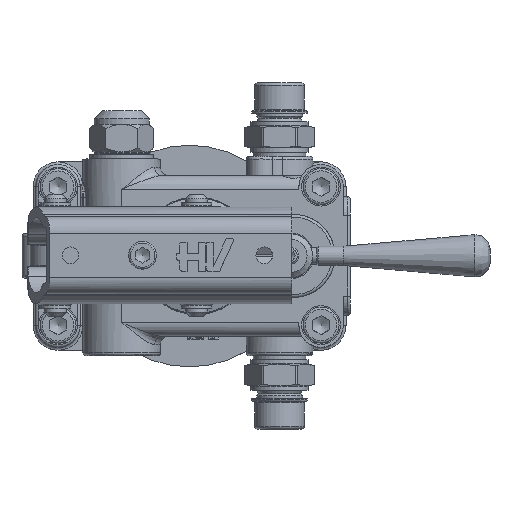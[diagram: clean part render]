
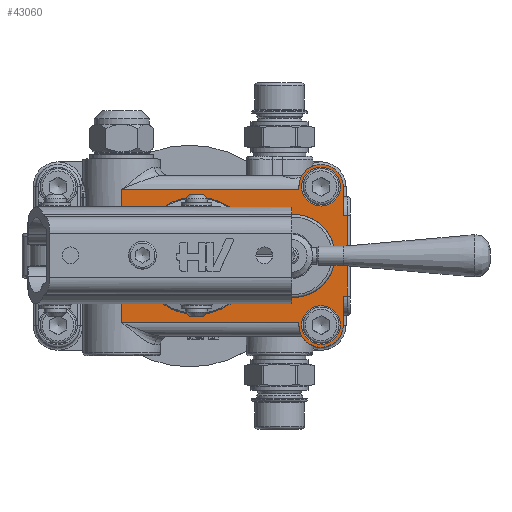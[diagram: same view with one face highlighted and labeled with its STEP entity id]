
A CAD part, top view. The second image highlights one B-rep face of the part: STEP entity #43060.
In plain terms, the highlighted planar face has unit normal (0, 0, 1).
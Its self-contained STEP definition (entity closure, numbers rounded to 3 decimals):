
#18689=CARTESIAN_POINT('',(74.594,44.858,43.));
#18690=VERTEX_POINT('',#18689);
#18691=CARTESIAN_POINT('',(59.,34.0,43.));
#18692=DIRECTION('',(0.,0.,-1.0));
#18693=DIRECTION('',(-0.821,-0.571,0.));
#18694=AXIS2_PLACEMENT_3D('',#18691,#18692,#18693);
#18695=CIRCLE('',#18694,19.002);
#18696=EDGE_CURVE('',#18690,#18690,#18695,.T.);
#37099=CARTESIAN_POINT('',(111.,59.,43.));
#37100=VERTEX_POINT('',#37099);
#37101=CARTESIAN_POINT('',(104.,59.,43.));
#37102=DIRECTION('',(0.0,0.0,-1.0));
#37103=DIRECTION('',(1.0,0.0,0.0));
#37104=AXIS2_PLACEMENT_3D('',#37101,#37102,#37103);
#37105=CIRCLE('',#37104,7.);
#37106=EDGE_CURVE('',#37100,#37100,#37105,.T.);
#37139=CARTESIAN_POINT('',(111.0,9.,43.));
#37140=VERTEX_POINT('',#37139);
#37141=CARTESIAN_POINT('',(104.0,9.,43.));
#37142=DIRECTION('',(0.0,0.0,-1.0));
#37143=DIRECTION('',(1.0,0.0,0.0));
#37144=AXIS2_PLACEMENT_3D('',#37141,#37142,#37143);
#37145=CIRCLE('',#37144,7.);
#37146=EDGE_CURVE('',#37140,#37140,#37145,.T.);
#38423=CARTESIAN_POINT('',(112.,9.,43.));
#38424=VERTEX_POINT('',#38423);
#38431=CARTESIAN_POINT('',(96.0,9.,43.));
#38432=VERTEX_POINT('',#38431);
#38433=CARTESIAN_POINT('',(104.0,9.,43.));
#38434=DIRECTION('',(0.0,0.0,-1.0));
#38435=DIRECTION('',(-1.0,0.0,0.0));
#38436=AXIS2_PLACEMENT_3D('',#38433,#38434,#38435);
#38437=CIRCLE('',#38436,8.0);
#38438=EDGE_CURVE('',#38424,#38432,#38437,.T.);
#38566=CARTESIAN_POINT('',(83.0,23.802,43.));
#38567=VERTEX_POINT('',#38566);
#38575=CARTESIAN_POINT('',(83.0,44.198,43.));
#38576=VERTEX_POINT('',#38575);
#38577=CARTESIAN_POINT('',(94.,34.0,43.));
#38578=DIRECTION('',(0.0,0.0,-1.0));
#38579=DIRECTION('',(-1.0,0.0,0.0));
#38580=AXIS2_PLACEMENT_3D('',#38577,#38578,#38579);
#38581=CIRCLE('',#38580,15.0);
#38582=EDGE_CURVE('',#38576,#38567,#38581,.T.);
#38601=CARTESIAN_POINT('',(83.0,23.802,43.));
#38602=DIRECTION('',(0.0,1.0,0.0));
#38603=VECTOR('',#38602,20.396);
#38604=LINE('',#38601,#38603);
#38605=EDGE_CURVE('',#38567,#38576,#38604,.T.);
#39102=CARTESIAN_POINT('',(96.,59.,43.));
#39103=VERTEX_POINT('',#39102);
#39110=CARTESIAN_POINT('',(112.0,59.,43.));
#39111=VERTEX_POINT('',#39110);
#39112=CARTESIAN_POINT('',(104.,59.,43.));
#39113=DIRECTION('',(0.0,0.0,-1.0));
#39114=DIRECTION('',(1.0,0.0,0.0));
#39115=AXIS2_PLACEMENT_3D('',#39112,#39113,#39114);
#39116=CIRCLE('',#39115,8.0);
#39117=EDGE_CURVE('',#39103,#39111,#39116,.T.);
#39142=CARTESIAN_POINT('',(32.,58.,43.));
#39143=VERTEX_POINT('',#39142);
#39159=CARTESIAN_POINT('',(96.,58.,43.));
#39160=VERTEX_POINT('',#39159);
#39161=CARTESIAN_POINT('',(96.,58.,43.));
#39162=DIRECTION('',(-1.0,0.0,0.0));
#39163=VECTOR('',#39162,64.);
#39164=LINE('',#39161,#39163);
#39165=EDGE_CURVE('',#39160,#39143,#39164,.T.);
#39961=CARTESIAN_POINT('',(32.,44.122,43.));
#39962=VERTEX_POINT('',#39961);
#39973=CARTESIAN_POINT('',(32.0,44.122,43.0));
#39974=DIRECTION('',(0.0,1.0,0.0));
#39975=VECTOR('',#39974,13.878);
#39976=LINE('',#39973,#39975);
#39977=EDGE_CURVE('',#39962,#39143,#39976,.T.);
#40665=CARTESIAN_POINT('',(32.,10.0,43.));
#40666=VERTEX_POINT('',#40665);
#41135=CARTESIAN_POINT('',(32.,23.878,43.));
#41136=VERTEX_POINT('',#41135);
#41137=CARTESIAN_POINT('',(32.0,10.,43.0));
#41138=DIRECTION('',(0.0,1.0,0.0));
#41139=VECTOR('',#41138,13.878);
#41140=LINE('',#41137,#41139);
#41141=EDGE_CURVE('',#40666,#41136,#41140,.T.);
#41234=CARTESIAN_POINT('',(96.0,10.0,43.));
#41235=VERTEX_POINT('',#41234);
#41243=CARTESIAN_POINT('',(96.0,10.0,43.));
#41244=DIRECTION('',(-1.0,0.0,0.0));
#41245=VECTOR('',#41244,64.);
#41246=LINE('',#41243,#41245);
#41247=EDGE_CURVE('',#41235,#40666,#41246,.T.);
#42470=CARTESIAN_POINT('',(113.5,48.5,43.));
#42471=VERTEX_POINT('',#42470);
#42514=CARTESIAN_POINT('',(113.5,19.5,43.));
#42515=VERTEX_POINT('',#42514);
#42532=CARTESIAN_POINT('',(113.5,48.5,43.));
#42533=DIRECTION('',(0.0,-1.0,0.0));
#42534=VECTOR('',#42533,29.);
#42535=LINE('',#42532,#42534);
#42536=EDGE_CURVE('',#42471,#42515,#42535,.T.);
#42955=CARTESIAN_POINT('',(112.0,19.5,43.));
#42956=VERTEX_POINT('',#42955);
#42957=CARTESIAN_POINT('',(112.0,19.5,43.));
#42958=DIRECTION('',(1.0,0.0,0.0));
#42959=VECTOR('',#42958,1.5);
#42960=LINE('',#42957,#42959);
#42961=EDGE_CURVE('',#42956,#42515,#42960,.T.);
#42974=CARTESIAN_POINT('',(104.,34.,43.));
#42975=DIRECTION('',(0.0,0.0,1.0));
#42976=DIRECTION('',(1.0,0.0,0.0));
#42977=AXIS2_PLACEMENT_3D('',#42974,#42975,#42976);
#42978=PLANE('',#42977);
#42979=ORIENTED_EDGE('',*,*,#42536,.F.);
#42980=CARTESIAN_POINT('',(112.,48.5,43.));
#42981=VERTEX_POINT('',#42980);
#42982=CARTESIAN_POINT('',(112.,48.5,43.));
#42983=DIRECTION('',(1.0,0.0,0.0));
#42984=VECTOR('',#42983,1.5);
#42985=LINE('',#42982,#42984);
#42986=EDGE_CURVE('',#42981,#42471,#42985,.T.);
#42987=ORIENTED_EDGE('',*,*,#42986,.F.);
#42988=CARTESIAN_POINT('',(112.0,59.,43.));
#42989=DIRECTION('',(0.0,-1.0,0.0));
#42990=VECTOR('',#42989,10.5);
#42991=LINE('',#42988,#42990);
#42992=EDGE_CURVE('',#39111,#42981,#42991,.T.);
#42993=ORIENTED_EDGE('',*,*,#42992,.F.);
#42994=ORIENTED_EDGE('',*,*,#39117,.F.);
#42995=CARTESIAN_POINT('',(96.,58.,43.));
#42996=DIRECTION('',(0.0,1.0,0.0));
#42997=VECTOR('',#42996,1.);
#42998=LINE('',#42995,#42997);
#42999=EDGE_CURVE('',#39160,#39103,#42998,.T.);
#43000=ORIENTED_EDGE('',*,*,#42999,.F.);
#43001=ORIENTED_EDGE('',*,*,#39165,.T.);
#43002=ORIENTED_EDGE('',*,*,#39977,.F.);
#43003=CARTESIAN_POINT('',(33.732,41.0,43.));
#43004=VERTEX_POINT('',#43003);
#43005=CARTESIAN_POINT('',(33.732,41.0,43.));
#43006=CARTESIAN_POINT('',(33.732,41.528,43.));
#43007=CARTESIAN_POINT('',(33.438,42.767,43.));
#43008=CARTESIAN_POINT('',(32.582,43.719,43.));
#43009=CARTESIAN_POINT('',(32.,44.122,43.));
#43010=B_SPLINE_CURVE_WITH_KNOTS('',3,(#43005,#43006,#43007,#43008,#43009),.UNSPECIFIED.,.F.,.U.,(4,1,4),(2.696,2.855,3.066),.UNSPECIFIED.);
#43011=EDGE_CURVE('',#43004,#39962,#43010,.T.);
#43012=ORIENTED_EDGE('',*,*,#43011,.F.);
#43013=CARTESIAN_POINT('',(33.732,27.,43.));
#43014=VERTEX_POINT('',#43013);
#43015=CARTESIAN_POINT('',(33.732,27.,43.));
#43016=DIRECTION('',(0.0,1.0,0.0));
#43017=VECTOR('',#43016,14.);
#43018=LINE('',#43015,#43017);
#43019=EDGE_CURVE('',#43014,#43004,#43018,.T.);
#43020=ORIENTED_EDGE('',*,*,#43019,.F.);
#43021=CARTESIAN_POINT('',(32.,23.878,43.));
#43022=CARTESIAN_POINT('',(32.433,24.178,43.));
#43023=CARTESIAN_POINT('',(33.336,25.067,43.));
#43024=CARTESIAN_POINT('',(33.732,26.29,43.0));
#43025=CARTESIAN_POINT('',(33.732,27.,43.));
#43026=B_SPLINE_CURVE_WITH_KNOTS('',3,(#43021,#43022,#43023,#43024,#43025),.UNSPECIFIED.,.F.,.U.,(4,1,4),(2.696,2.854,3.065),.UNSPECIFIED.);
#43027=EDGE_CURVE('',#41136,#43014,#43026,.T.);
#43028=ORIENTED_EDGE('',*,*,#43027,.F.);
#43029=ORIENTED_EDGE('',*,*,#41141,.F.);
#43030=ORIENTED_EDGE('',*,*,#41247,.F.);
#43031=CARTESIAN_POINT('',(96.,9.,43.));
#43032=DIRECTION('',(0.0,1.0,0.0));
#43033=VECTOR('',#43032,1.);
#43034=LINE('',#43031,#43033);
#43035=EDGE_CURVE('',#38432,#41235,#43034,.T.);
#43036=ORIENTED_EDGE('',*,*,#43035,.F.);
#43037=ORIENTED_EDGE('',*,*,#38438,.F.);
#43038=CARTESIAN_POINT('',(112.,19.5,43.));
#43039=DIRECTION('',(0.0,-1.0,0.0));
#43040=VECTOR('',#43039,10.5);
#43041=LINE('',#43038,#43040);
#43042=EDGE_CURVE('',#42956,#38424,#43041,.T.);
#43043=ORIENTED_EDGE('',*,*,#43042,.F.);
#43044=ORIENTED_EDGE('',*,*,#42961,.T.);
#43045=EDGE_LOOP('',(#42979,#42987,#42993,#42994,#43000,#43001,#43002,#43012,#43020,#43028,#43029,#43030,#43036,#43037,#43043,#43044));
#43046=FACE_OUTER_BOUND('',#43045,.T.);
#43047=ORIENTED_EDGE('',*,*,#18696,.T.);
#43048=EDGE_LOOP('',(#43047));
#43049=FACE_BOUND('',#43048,.T.);
#43050=ORIENTED_EDGE('',*,*,#37106,.T.);
#43051=EDGE_LOOP('',(#43050));
#43052=FACE_BOUND('',#43051,.T.);
#43053=ORIENTED_EDGE('',*,*,#37146,.T.);
#43054=EDGE_LOOP('',(#43053));
#43055=FACE_BOUND('',#43054,.T.);
#43056=ORIENTED_EDGE('',*,*,#38582,.T.);
#43057=ORIENTED_EDGE('',*,*,#38605,.T.);
#43058=EDGE_LOOP('',(#43056,#43057));
#43059=FACE_BOUND('',#43058,.T.);
#43060=ADVANCED_FACE('',(#43046,#43049,#43052,#43055,#43059),#42978,.T.);
